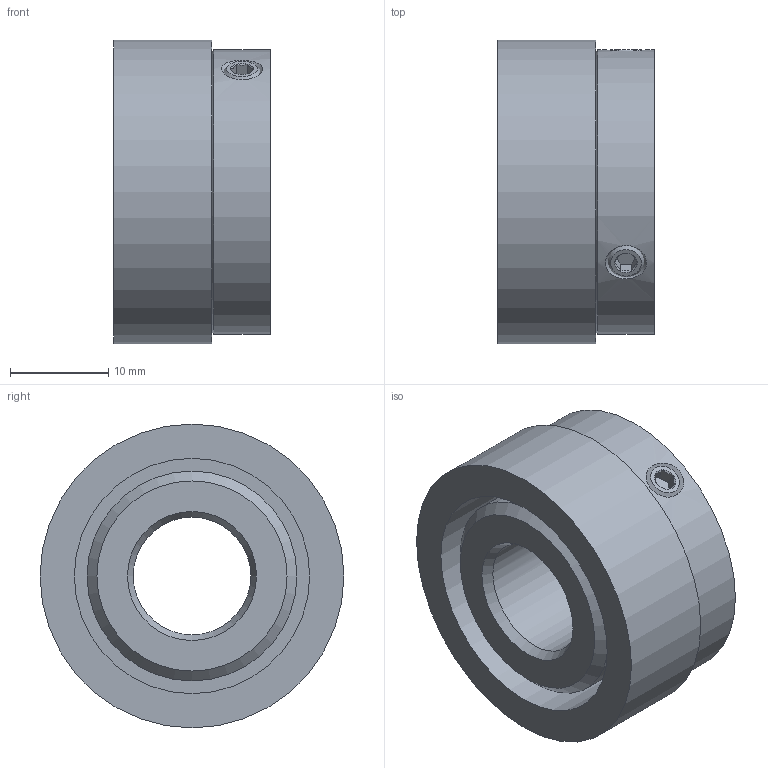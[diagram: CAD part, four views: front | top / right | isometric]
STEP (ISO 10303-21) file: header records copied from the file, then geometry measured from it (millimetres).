
FILE_DESCRIPTION (( 'STEP AP203' ), '1' );
FILE_NAME ('8.RI50.031.0120.112.STEP', '2013-07-16T06:56:24', ( 'Hodot' ), ( '' ), 'SwSTEP 2.0', 'SolidWorks 2012', '' );
FILE_SCHEMA (( 'CONFIG_CONTROL_DESIGN' ));
Length unit declared in the file: millimetre
Products named in the file (1): 8.RI50.031.0120.112
Bounding box: 16 x 31 x 31 mm (x, y, z)
Volume: 8472.3 mm3; surface area: 5423.7 mm2
Topology: 4 solids, 4 shells, 54 faces, 103 edges, 59 vertices
Faces by surface type: plane 22, cone 22, cylinder 10
Full cylindrical faces by diameter (mm): 3.3 x2, 4 x2, 12 x1, 21.4 x1, 24 x1, 27 x1, 29 x1, 31 x1
Entity records: 1515 total; most frequent: CARTESIAN_POINT 475, DIRECTION 206, ORIENTED_EDGE 152, AXIS2_PLACEMENT_3D 91, EDGE_LOOP 84, EDGE_CURVE 76, FACE_OUTER_BOUND 64, ADVANCED_FACE 54
